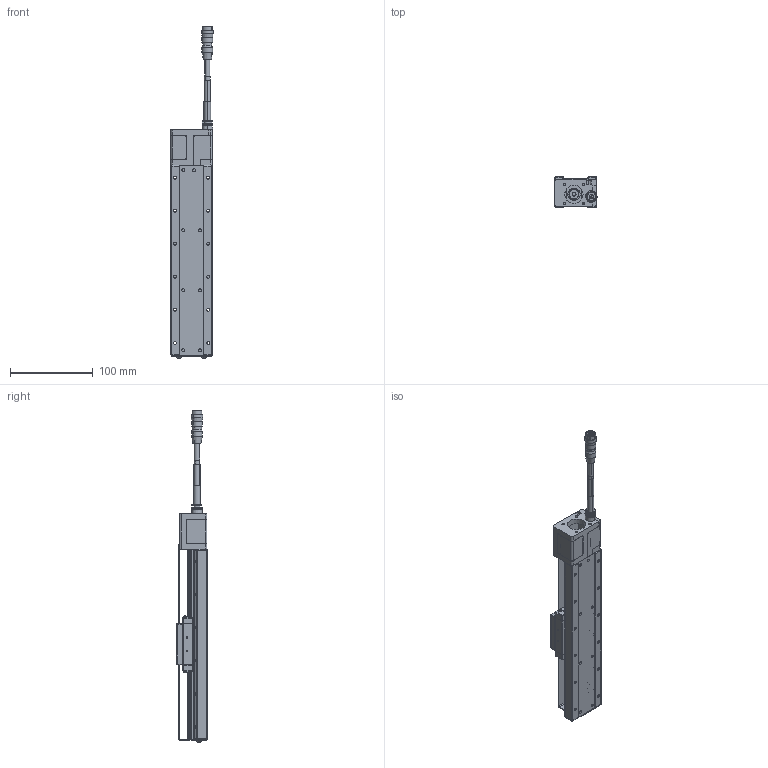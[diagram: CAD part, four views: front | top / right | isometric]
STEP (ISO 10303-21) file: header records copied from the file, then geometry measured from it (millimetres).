
FILE_DESCRIPTION (( 'STEP AP203' ), '1' );
FILE_NAME ('CXC50150-S2?N(28框無馬達).', '2024-01-05T03:06:14', ( '' ), ( '' ), 'SwSTEP 2.0', 'SolidWorks 2019', '' );
FILE_SCHEMA (( 'CONFIG_CONTROL_DESIGN' ));
Length unit declared in the file: millimetre
Products named in the file (9): Group1^CXC50150-S2?N(28框無馬達)_defeature_GMT; CXC50150-S2OPAN-303_50; HR10A-10J-12P_帶線示意; SC03B008_SUS304(鍍鋅黑); Group2^CXC50150-S2?N(28框無馬達)_defeature_GMT; CXC50-102-10; CXC50150-S2?N(28框無馬達); SD04B006_SD04B006-SCM435(化鎳); SG02B004_SCM435(化鎳)
Assembly tree (14 placements, depth 2):
  CXC50150-S2?N(28框無馬達)
    Group1^CXC50150-S2?N(28框無馬達)_defeature_GMT
    Group2^CXC50150-S2?N(28框無馬達)_defeature_GMT
    SD04B006_SD04B006-SCM435(化鎳)  x2
    SG02B004_SCM435(化鎳)  x2
    CXC50150-S2OPAN-303_50
    SC03B008_SUS304(鍍鋅黑)  x4
    CXC50-102-10  x2
    HR10A-10J-12P_帶線示意
Bounding box: 50.98 x 37 x 401.7 mm (x, y, z)
Volume: 49823.3 mm3; surface area: 118988.5 mm2
Topology: 16 solids, 19 shells, 3053 faces, 7734 edges, 4593 vertices
Faces by surface type: plane 1265, cylinder 964, cone 246, torus 224, bspline 181, sphere 173
Entity records: 91693 total; most frequent: CARTESIAN_POINT 22971, DIRECTION 14590, ORIENTED_EDGE 14064, EDGE_CURVE 7032, AXIS2_PLACEMENT_3D 5453, VERTEX_POINT 4270, LINE 3684, VECTOR 3684
